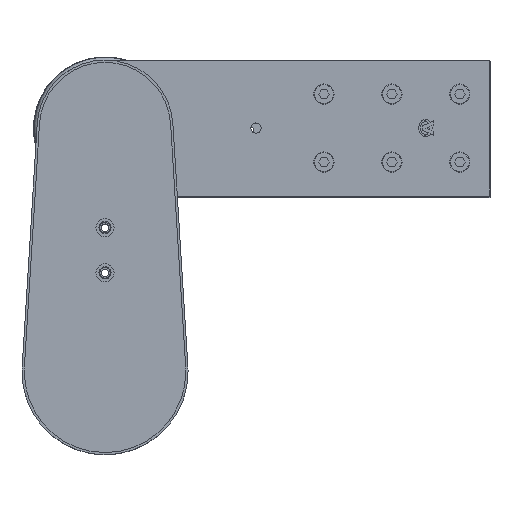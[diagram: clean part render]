
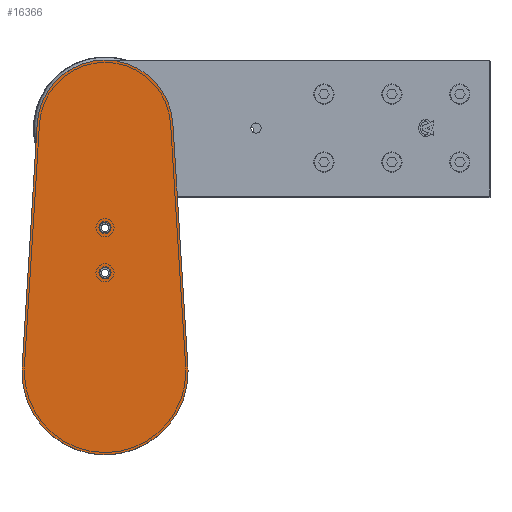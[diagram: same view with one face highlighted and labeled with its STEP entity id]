
A CAD part, top view. The second image highlights one B-rep face of the part: STEP entity #16366.
In plain terms, the highlighted planar face has unit normal (0, 0, 1) as drawn and (0, 0, -1) by its records, which use the part's own axes.
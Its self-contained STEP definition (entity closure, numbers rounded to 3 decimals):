
#7 = VERTEX_POINT ( 'NONE', #7035 ) ;
#195 = DIRECTION ( 'NONE',  ( 0., 0., 1. ) ) ;
#1342 = CIRCLE ( 'NONE', #20393, 3.5 ) ;
#2185 = ORIENTED_EDGE ( 'NONE', *, *, #39399, .F. ) ;
#2310 = VERTEX_POINT ( 'NONE', #26831 ) ;
#2500 = CARTESIAN_POINT ( 'NONE',  ( -44.914, 164.286, 0. ) ) ;
#2982 = AXIS2_PLACEMENT_3D ( 'NONE', #38894, #19832, #17206 ) ;
#3202 = PLANE ( 'NONE',  #23209 ) ;
#3217 = ORIENTED_EDGE ( 'NONE', *, *, #10043, .F. ) ;
#4143 = CARTESIAN_POINT ( 'NONE',  ( 0., 95.5, 0. ) ) ;
#4381 = EDGE_CURVE ( 'NONE', #2310, #8521, #16954, .T. ) ;
#4976 = DIRECTION ( 'NONE',  ( 1., 0., 0. ) ) ;
#5017 = CARTESIAN_POINT ( 'NONE',  ( 0., 65.5, 0. ) ) ;
#6579 = EDGE_CURVE ( 'NONE', #11266, #26991, #27512, .T. ) ;
#7035 = CARTESIAN_POINT ( 'NONE',  ( -3.5, 65.5, 0. ) ) ;
#7160 = VERTEX_POINT ( 'NONE', #27552 ) ;
#7256 = DIRECTION ( 'NONE',  ( 1., 0., 0. ) ) ;
#7414 = CARTESIAN_POINT ( 'NONE',  ( -3.5, 95.5, 0. ) ) ;
#8521 = VERTEX_POINT ( 'NONE', #2500 ) ;
#9508 = EDGE_CURVE ( 'NONE', #15410, #11266, #27575, .T. ) ;
#9885 = DIRECTION ( 'NONE',  ( 1., 0., 0. ) ) ;
#9948 = CARTESIAN_POINT ( 'NONE',  ( 0., 0., 0. ) ) ;
#10043 = EDGE_CURVE ( 'NONE', #8521, #15410, #29526, .T. ) ;
#11040 = FACE_BOUND ( 'NONE', #40045, .T. ) ;
#11266 = VERTEX_POINT ( 'NONE', #27744 ) ;
#11835 = CIRCLE ( 'NONE', #20270, 3.5 ) ;
#11992 = VERTEX_POINT ( 'NONE', #22129 ) ;
#12055 = ORIENTED_EDGE ( 'NONE', *, *, #4381, .F. ) ;
#12332 = DIRECTION ( 'NONE',  ( -0.062, -0.998, 0. ) ) ;
#12470 = FACE_OUTER_BOUND ( 'NONE', #28527, .T. ) ;
#12578 = CARTESIAN_POINT ( 'NONE',  ( 0., 161.5, 0. ) ) ;
#13241 = AXIS2_PLACEMENT_3D ( 'NONE', #22905, #26021, #26288 ) ;
#13453 = FACE_BOUND ( 'NONE', #28316, .T. ) ;
#14743 = CARTESIAN_POINT ( 'NONE',  ( 0., 95.5, 0. ) ) ;
#14958 = DIRECTION ( 'NONE',  ( 0., 0., 1. ) ) ;
#15410 = VERTEX_POINT ( 'NONE', #30973 ) ;
#15732 = CARTESIAN_POINT ( 'NONE',  ( 55., 0., 0. ) ) ;
#16366 = ADVANCED_FACE ( 'NONE', ( #13453, #11040, #12470 ), #3202, .F. ) ;
#16569 = ORIENTED_EDGE ( 'NONE', *, *, #9508, .F. ) ;
#16611 = CARTESIAN_POINT ( 'NONE',  ( 0., 161.5, 0. ) ) ;
#16954 = CIRCLE ( 'NONE', #38476, 45. ) ;
#17206 = DIRECTION ( 'NONE',  ( 1., 0., 0. ) ) ;
#17373 = ORIENTED_EDGE ( 'NONE', *, *, #18925, .F. ) ;
#17498 = DIRECTION ( 'NONE',  ( 0., 0., -1. ) ) ;
#17768 = CARTESIAN_POINT ( 'NONE',  ( 3.5, 65.5, 0. ) ) ;
#18077 = AXIS2_PLACEMENT_3D ( 'NONE', #28661, #195, #9885 ) ;
#18791 = DIRECTION ( 'NONE',  ( 0., 0., 1. ) ) ;
#18925 = EDGE_CURVE ( 'NONE', #29110, #7160, #20704, .T. ) ;
#19832 = DIRECTION ( 'NONE',  ( 0., 0., -1. ) ) ;
#19968 = CIRCLE ( 'NONE', #2982, 3.5 ) ;
#20270 = AXIS2_PLACEMENT_3D ( 'NONE', #5017, #36208, #29861 ) ;
#20393 = AXIS2_PLACEMENT_3D ( 'NONE', #4143, #23075, #7256 ) ;
#20704 = CIRCLE ( 'NONE', #30295, 3.5 ) ;
#21309 = VECTOR ( 'NONE', #12332, 1000. ) ;
#21452 = EDGE_CURVE ( 'NONE', #26991, #11992, #29427, .T. ) ;
#22129 = CARTESIAN_POINT ( 'NONE',  ( 54.894, 3.406, 0. ) ) ;
#22905 = CARTESIAN_POINT ( 'NONE',  ( 0., 0., 0. ) ) ;
#23075 = DIRECTION ( 'NONE',  ( 0., 0., -1. ) ) ;
#23209 = AXIS2_PLACEMENT_3D ( 'NONE', #12578, #14958, #28842 ) ;
#23451 = EDGE_CURVE ( 'NONE', #7160, #29110, #1342, .T. ) ;
#24043 = VERTEX_POINT ( 'NONE', #17768 ) ;
#25252 = LINE ( 'NONE', #36329, #25742 ) ;
#25742 = VECTOR ( 'NONE', #30232, 1000. ) ;
#25992 = DIRECTION ( 'NONE',  ( 1., 0., 0. ) ) ;
#26021 = DIRECTION ( 'NONE',  ( 0., 0., 1. ) ) ;
#26288 = DIRECTION ( 'NONE',  ( 1., 0., 0. ) ) ;
#26831 = CARTESIAN_POINT ( 'NONE',  ( 44.914, 164.286, 0. ) ) ;
#26991 = VERTEX_POINT ( 'NONE', #15732 ) ;
#27512 = CIRCLE ( 'NONE', #18077, 55. ) ;
#27552 = CARTESIAN_POINT ( 'NONE',  ( 3.5, 95.5, 0. ) ) ;
#27575 = CIRCLE ( 'NONE', #29195, 55. ) ;
#27744 = CARTESIAN_POINT ( 'NONE',  ( -55., 0., 0. ) ) ;
#27817 = ORIENTED_EDGE ( 'NONE', *, *, #21452, .F. ) ;
#28011 = EDGE_CURVE ( 'NONE', #24043, #7, #11835, .T. ) ;
#28316 = EDGE_LOOP ( 'NONE', ( #32996, #17373 ) ) ;
#28527 = EDGE_LOOP ( 'NONE', ( #12055, #2185, #27817, #30624, #16569, #3217 ) ) ;
#28661 = CARTESIAN_POINT ( 'NONE',  ( 0., 0., 0. ) ) ;
#28842 = DIRECTION ( 'NONE',  ( 1., 0., 0. ) ) ;
#29110 = VERTEX_POINT ( 'NONE', #7414 ) ;
#29195 = AXIS2_PLACEMENT_3D ( 'NONE', #9948, #18791, #34104 ) ;
#29427 = CIRCLE ( 'NONE', #13241, 55. ) ;
#29526 = LINE ( 'NONE', #37009, #21309 ) ;
#29861 = DIRECTION ( 'NONE',  ( 1., 0., 0. ) ) ;
#30232 = DIRECTION ( 'NONE',  ( -0.062, 0.998, 0. ) ) ;
#30295 = AXIS2_PLACEMENT_3D ( 'NONE', #14743, #17498, #4976 ) ;
#30624 = ORIENTED_EDGE ( 'NONE', *, *, #6579, .F. ) ;
#30973 = CARTESIAN_POINT ( 'NONE',  ( -54.894, 3.406, 0. ) ) ;
#31464 = ORIENTED_EDGE ( 'NONE', *, *, #35866, .F. ) ;
#31782 = ORIENTED_EDGE ( 'NONE', *, *, #28011, .F. ) ;
#32996 = ORIENTED_EDGE ( 'NONE', *, *, #23451, .F. ) ;
#34104 = DIRECTION ( 'NONE',  ( 1., 0., 0. ) ) ;
#35866 = EDGE_CURVE ( 'NONE', #7, #24043, #19968, .T. ) ;
#36208 = DIRECTION ( 'NONE',  ( 0., 0., -1. ) ) ;
#36329 = CARTESIAN_POINT ( 'NONE',  ( 44.914, 164.286, 0. ) ) ;
#37009 = CARTESIAN_POINT ( 'NONE',  ( -44.914, 164.286, 0. ) ) ;
#38476 = AXIS2_PLACEMENT_3D ( 'NONE', #16611, #38693, #25992 ) ;
#38693 = DIRECTION ( 'NONE',  ( 0., 0., 1. ) ) ;
#38894 = CARTESIAN_POINT ( 'NONE',  ( 0., 65.5, 0. ) ) ;
#39399 = EDGE_CURVE ( 'NONE', #11992, #2310, #25252, .T. ) ;
#40045 = EDGE_LOOP ( 'NONE', ( #31782, #31464 ) ) ;
